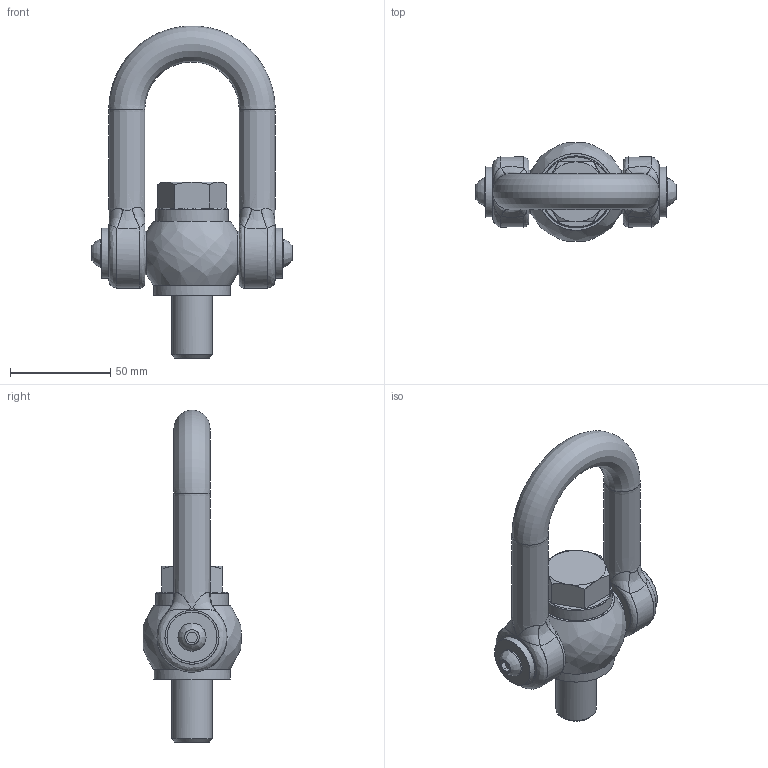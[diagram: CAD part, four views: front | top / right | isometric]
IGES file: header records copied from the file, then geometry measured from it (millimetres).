
Global section: file name: E:\UnigraphicsGraphicData\MISUMI_MOLD-PARTS\NX\3d_sleb20_00879_r00.igs; native system: NX V5.0; preprocessor: UGS NX IGES V5.0; author: MISUMI; date: 20101115.183348; units: millimetre
Bounding box: 100 x 49.15 x 165.88 mm (x, y, z)
Surface area: 38005.7 mm2 (no closed solid volume)
Topology: 0 solids, 0 shells, 81 faces, 725 edges, 696 vertices
Faces by surface type: bspline 81
